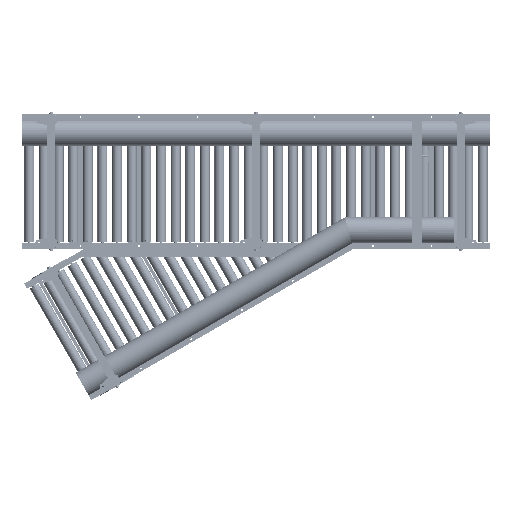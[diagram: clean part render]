
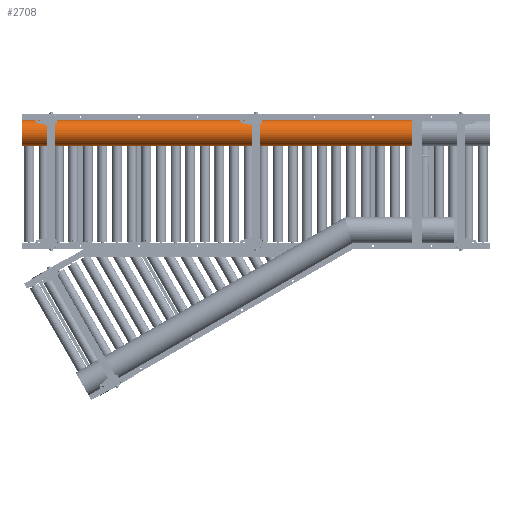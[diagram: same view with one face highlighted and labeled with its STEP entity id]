
A CAD part, front view. The second image highlights one B-rep face of the part: STEP entity #2708.
In plain terms, the highlighted cylindrical face has radius 66.89 mm (diameter 133.78 mm), a partial arc.
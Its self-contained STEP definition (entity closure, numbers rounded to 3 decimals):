
#2708=ADVANCED_FACE('',(#7657),#7656,.T.);
#7656=CYLINDRICAL_SURFACE('',#53015,66.89);
#7657=FACE_OUTER_BOUND('',#53016,.T.);
#53012=CARTESIAN_POINT('',(-2577.652,-150.,250.11));
#53013=DIRECTION('',(-1.,0.,0.));
#53014=DIRECTION('',(0.,0.,1.));
#53015=AXIS2_PLACEMENT_3D('',#53012,#53013,#53014);
#53016=EDGE_LOOP('',(#76426,#76427,#76428,#76429));
#76426=ORIENTED_EDGE('',*,*,#100411,.T.);
#76427=ORIENTED_EDGE('',*,*,#100413,.T.);
#76428=ORIENTED_EDGE('',*,*,#100406,.F.);
#76429=ORIENTED_EDGE('',*,*,#100414,.T.);
#100406=EDGE_CURVE('',#113746,#113747,#113748,.T.);
#100411=EDGE_CURVE('',#113781,#113774,#113782,.T.);
#100413=EDGE_CURVE('',#113774,#113747,#113794,.T.);
#100414=EDGE_CURVE('',#113746,#113781,#113800,.T.);
#113746=VERTEX_POINT('',#193505);
#113747=VERTEX_POINT('',#193506);
#113748=LINE('',#193507,#193508);
#113774=VERTEX_POINT('',#193521);
#113781=VERTEX_POINT('',#193525);
#113782=LINE('',#193526,#193527);
#113794=CIRCLE('',#193535,66.89);
#113800=CIRCLE('',#193539,66.89);
#193505=CARTESIAN_POINT('',(-2400.,-150.,317.));
#193506=CARTESIAN_POINT('',(-402.5,-150.,317.));
#193507=CARTESIAN_POINT('',(-2400.,-150.,317.));
#193508=VECTOR('',#193509,1997.5);
#193509=DIRECTION('',(1.,0.,0.));
#193521=CARTESIAN_POINT('',(-402.5,-150.,183.22));
#193525=CARTESIAN_POINT('',(-2400.,-150.,183.22));
#193526=CARTESIAN_POINT('',(-2400.,-150.,183.22));
#193527=VECTOR('',#193528,1997.5);
#193528=DIRECTION('',(1.,0.,0.));
#193532=CARTESIAN_POINT('',(-402.5,-150.,250.11));
#193533=DIRECTION('',(-1.,0.,0.));
#193534=DIRECTION('',(0.,0.,1.));
#193535=AXIS2_PLACEMENT_3D('',#193532,#193533,#193534);
#193536=CARTESIAN_POINT('',(-2400.,-150.,250.11));
#193537=DIRECTION('',(1.,0.,0.));
#193538=DIRECTION('',(0.,0.,-1.));
#193539=AXIS2_PLACEMENT_3D('',#193536,#193537,#193538);
